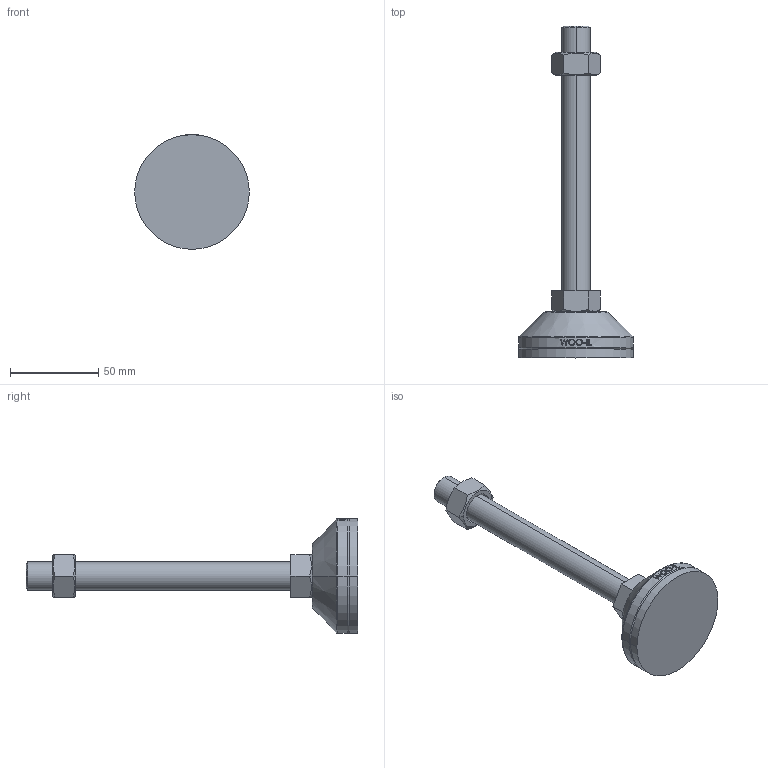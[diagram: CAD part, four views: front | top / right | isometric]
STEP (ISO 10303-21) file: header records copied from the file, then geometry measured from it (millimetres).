
FILE_DESCRIPTION (( 'STEP AP214' ), '1' );
FILE_NAME ('NHNR65-M16-150.step', '2021-01-25T06:17:29', ( '' ), ( '' ), 'SwSTEP 2.0', 'SolidWorks 2019', '' );
FILE_SCHEMA (( 'AUTOMOTIVE_DESIGN' ));
Length unit declared in the file: millimetre
Products named in the file (2): NHNR65-M16-150
Bounding box: 65 x 188 x 65 mm (x, y, z)
Volume: 107718.2 mm3; surface area: 28466.4 mm2
Topology: 4 solids, 4 shells, 105 faces, 239 edges, 152 vertices
Faces by surface type: plane 49, cylinder 18, bspline 16, cone 14, torus 8
Entity records: 4363 total; most frequent: CARTESIAN_POINT 2046, ORIENTED_EDGE 478, DIRECTION 429, EDGE_CURVE 239, AXIS2_PLACEMENT_3D 165, VERTEX_POINT 152, EDGE_LOOP 117, FACE_OUTER_BOUND 105
